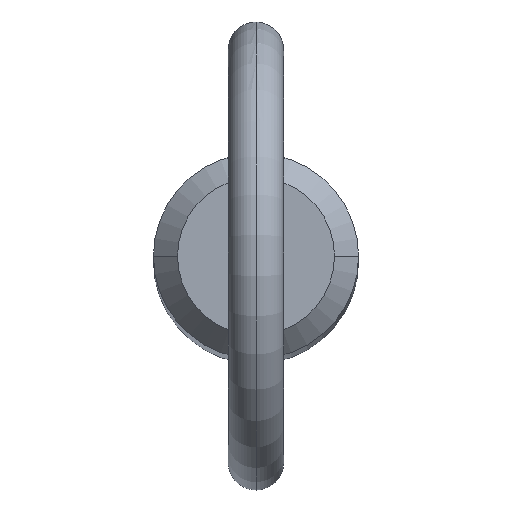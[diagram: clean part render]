
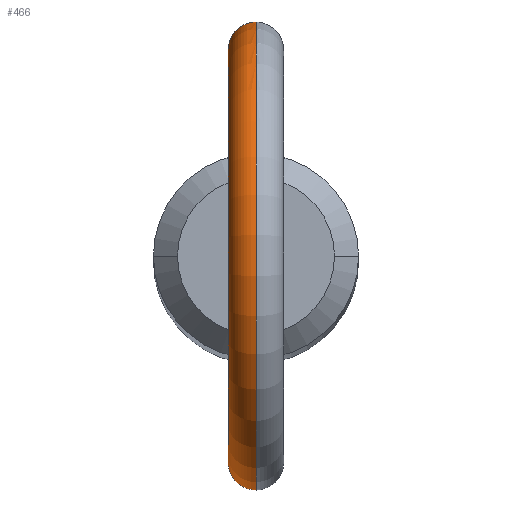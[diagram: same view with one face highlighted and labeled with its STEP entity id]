
A CAD part, top view. The second image highlights one B-rep face of the part: STEP entity #466.
In plain terms, the highlighted toroidal (fillet/blend) face has major radius 11.2 mm and minor radius 1.5 mm.
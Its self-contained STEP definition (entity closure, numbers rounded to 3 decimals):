
#2 = CARTESIAN_POINT ( 'NONE',  ( -1.195, -5.421, 141.171 ) ) ;
#7 = CARTESIAN_POINT ( 'NONE',  ( -0.211, -5.547, 141.929 ) ) ;
#8 = ORIENTED_EDGE ( 'NONE', *, *, #161, .F. ) ;
#19 = CARTESIAN_POINT ( 'NONE',  ( 0., 0., 149.9 ) ) ;
#24 = ORIENTED_EDGE ( 'NONE', *, *, #341, .F. ) ;
#25 = CARTESIAN_POINT ( 'NONE',  ( -0.976, 5.464, 138.831 ) ) ;
#46 = CARTESIAN_POINT ( 'NONE',  ( -0.42, -5.535, 138.532 ) ) ;
#57 = CARTESIAN_POINT ( 'NONE',  ( -0.214, 5.55, 138.477 ) ) ;
#60 = CARTESIAN_POINT ( 'NONE',  ( 0., 5.55, 138.477 ) ) ;
#62 = CARTESIAN_POINT ( 'NONE',  ( -0.213, 5.55, 141.945 ) ) ;
#63 = CIRCLE ( 'NONE', #446, 12.7 ) ;
#66 = CARTESIAN_POINT ( 'NONE',  ( -0.425, 5.537, 141.877 ) ) ;
#78 = CARTESIAN_POINT ( 'NONE',  ( -0.716, -5.504, 138.652 ) ) ;
#85 = CARTESIAN_POINT ( 'NONE',  ( -1.362, -5.381, 139.332 ) ) ;
#96 = CARTESIAN_POINT ( 'NONE',  ( -1.474, 5.351, 140.585 ) ) ;
#98 = CARTESIAN_POINT ( 'NONE',  ( 0., 5.55, 138.477 ) ) ;
#113 = CARTESIAN_POINT ( 'NONE',  ( -0.107, -5.55, 138.477 ) ) ;
#116 = FACE_OUTER_BOUND ( 'NONE', #354, .T. ) ;
#130 = CARTESIAN_POINT ( 'NONE',  ( -0.716, 5.504, 138.652 ) ) ;
#134 = DIRECTION ( 'NONE',  ( 0., 0., -1. ) ) ;
#145 = CARTESIAN_POINT ( 'NONE',  ( 0., -5.55, 138.477 ) ) ;
#152 = B_SPLINE_CURVE_WITH_KNOTS ( 'NONE', 3,
 ( #145, #113, #482, #46, #449, #78, #188, #274, #193, #230, #85, #232, #487, #314, #525, #191, #236, #310, #2, #313, #523, #403, #271, #7, #189, #276 ),
 .UNSPECIFIED., .F., .F.,
 ( 4, 2, 2, 2, 2, 2, 2, 2, 2, 2, 2, 2, 4 ),
 ( 0.01, 0.01, 0.01, 0.011, 0.011, 0.012, 0.012, 0.012, 0.013, 0.013, 0.014, 0.014, 0.015 ),
 .UNSPECIFIED. ) ;
#159 = CARTESIAN_POINT ( 'NONE',  ( 0., -5.55, 138.477 ) ) ;
#161 = EDGE_CURVE ( 'NONE', #293, #408, #152, .T. ) ;
#165 = DIRECTION ( 'NONE',  ( 0., 0., -1. ) ) ;
#169 = CARTESIAN_POINT ( 'NONE',  ( -0.941, 5.471, 141.507 ) ) ;
#171 = CARTESIAN_POINT ( 'NONE',  ( -1.486, 5.348, 139.738 ) ) ;
#175 = AXIS2_PLACEMENT_3D ( 'NONE', #19, #464, #505 ) ;
#188 = CARTESIAN_POINT ( 'NONE',  ( -0.807, -5.492, 138.705 ) ) ;
#189 = CARTESIAN_POINT ( 'NONE',  ( -0.106, -5.55, 141.945 ) ) ;
#191 = CARTESIAN_POINT ( 'NONE',  ( -1.485, -5.348, 140.379 ) ) ;
#193 = CARTESIAN_POINT ( 'NONE',  ( -1.054, -5.449, 138.904 ) ) ;
#208 = DIRECTION ( 'NONE',  ( 1., 0., 0. ) ) ;
#210 = CARTESIAN_POINT ( 'NONE',  ( -0.425, 5.537, 138.521 ) ) ;
#211 = CARTESIAN_POINT ( 'NONE',  ( -1.363, 5.38, 139.334 ) ) ;
#230 = CARTESIAN_POINT ( 'NONE',  ( -1.26, -5.407, 139.142 ) ) ;
#232 = CARTESIAN_POINT ( 'NONE',  ( -1.455, -5.356, 139.636 ) ) ;
#236 = CARTESIAN_POINT ( 'NONE',  ( -1.44, -5.36, 140.587 ) ) ;
#240 = CARTESIAN_POINT ( 'NONE',  ( 0., -5.55, 141.945 ) ) ;
#246 = AXIS2_PLACEMENT_3D ( 'NONE', #426, #301, #165 ) ;
#250 = CARTESIAN_POINT ( 'NONE',  ( -0.807, 5.492, 138.706 ) ) ;
#259 = CARTESIAN_POINT ( 'NONE',  ( -1.321, 5.397, 141.004 ) ) ;
#271 = CARTESIAN_POINT ( 'NONE',  ( -0.416, -5.535, 141.867 ) ) ;
#274 = CARTESIAN_POINT ( 'NONE',  ( -0.976, -5.464, 138.831 ) ) ;
#276 = CARTESIAN_POINT ( 'NONE',  ( 0., -5.55, 141.945 ) ) ;
#280 = CARTESIAN_POINT ( 'NONE',  ( 0., 5.55, 141.945 ) ) ;
#288 = VERTEX_POINT ( 'NONE', #280 ) ;
#293 = VERTEX_POINT ( 'NONE', #159 ) ;
#301 = DIRECTION ( 'NONE',  ( 1., 0., 0. ) ) ;
#308 = ORIENTED_EDGE ( 'NONE', *, *, #371, .F. ) ;
#310 = CARTESIAN_POINT ( 'NONE',  ( -1.294, -5.398, 140.986 ) ) ;
#313 = CARTESIAN_POINT ( 'NONE',  ( -0.939, -5.472, 141.51 ) ) ;
#314 = CARTESIAN_POINT ( 'NONE',  ( -1.5, -5.343, 139.953 ) ) ;
#325 = ORIENTED_EDGE ( 'NONE', *, *, #420, .T. ) ;
#335 = CARTESIAN_POINT ( 'NONE',  ( -0.786, 5.497, 141.657 ) ) ;
#336 = CARTESIAN_POINT ( 'NONE',  ( -1.26, 5.407, 139.143 ) ) ;
#341 = EDGE_CURVE ( 'NONE', #357, #293, #63, .T. ) ;
#344 = B_SPLINE_CURVE_WITH_KNOTS ( 'NONE', 3,
 ( #450, #62, #66, #335, #169, #259, #96, #379, #171, #211, #336, #376, #25, #250, #130, #210, #57, #98 ),
 .UNSPECIFIED., .F., .F.,
 ( 4, 2, 2, 2, 2, 2, 2, 2, 4 ),
 ( 0.006, 0.006, 0.007, 0.008, 0.009, 0.009, 0.01, 0.01, 0.011 ),
 .UNSPECIFIED. ) ;
#354 = EDGE_LOOP ( 'NONE', ( #24, #308, #325, #8 ) ) ;
#357 = VERTEX_POINT ( 'NONE', #60 ) ;
#371 = EDGE_CURVE ( 'NONE', #288, #357, #344, .T. ) ;
#376 = CARTESIAN_POINT ( 'NONE',  ( -1.055, 5.449, 138.905 ) ) ;
#379 = CARTESIAN_POINT ( 'NONE',  ( -1.509, 5.341, 139.955 ) ) ;
#403 = CARTESIAN_POINT ( 'NONE',  ( -0.513, -5.527, 141.823 ) ) ;
#405 = TOROIDAL_SURFACE ( 'NONE', #175, 11.2, 1.5 ) ;
#408 = VERTEX_POINT ( 'NONE', #240 ) ;
#420 = EDGE_CURVE ( 'NONE', #288, #408, #501, .T. ) ;
#426 = CARTESIAN_POINT ( 'NONE',  ( 0., 0., 149.9 ) ) ;
#446 = AXIS2_PLACEMENT_3D ( 'NONE', #459, #208, #134 ) ;
#449 = CARTESIAN_POINT ( 'NONE',  ( -0.523, -5.526, 138.566 ) ) ;
#450 = CARTESIAN_POINT ( 'NONE',  ( 0., 5.55, 141.945 ) ) ;
#459 = CARTESIAN_POINT ( 'NONE',  ( 0., 0., 149.9 ) ) ;
#464 = DIRECTION ( 'NONE',  ( 1., 0., 0. ) ) ;
#466 = ADVANCED_FACE ( 'NONE', ( #116 ), #405, .T. ) ;
#482 = CARTESIAN_POINT ( 'NONE',  ( -0.212, -5.547, 138.488 ) ) ;
#487 = CARTESIAN_POINT ( 'NONE',  ( -1.477, -5.35, 139.742 ) ) ;
#501 = CIRCLE ( 'NONE', #246, 9.7 ) ;
#505 = DIRECTION ( 'NONE',  ( 0., 0., -1. ) ) ;
#523 = CARTESIAN_POINT ( 'NONE',  ( -0.785, -5.497, 141.658 ) ) ;
#525 = CARTESIAN_POINT ( 'NONE',  ( -1.503, -5.343, 140.059 ) ) ;
